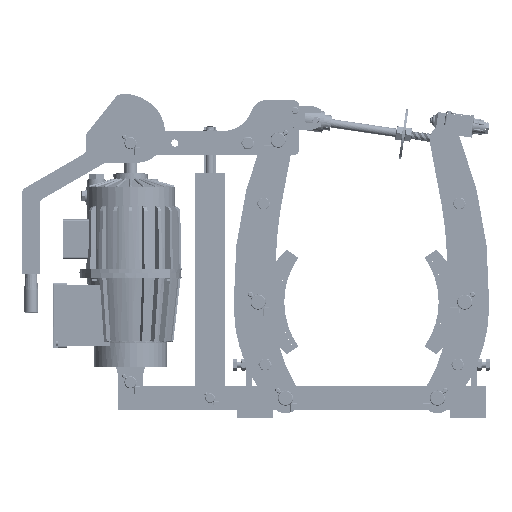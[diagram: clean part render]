
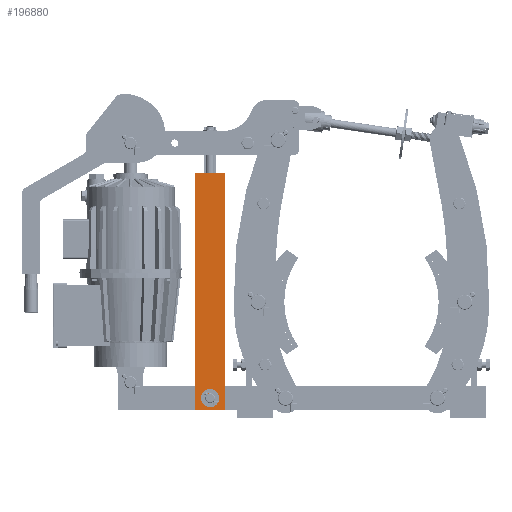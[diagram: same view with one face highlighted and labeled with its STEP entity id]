
A CAD part, left-side view. The second image highlights one B-rep face of the part: STEP entity #196880.
In plain terms, the highlighted planar face has unit normal (1, 0, 0).
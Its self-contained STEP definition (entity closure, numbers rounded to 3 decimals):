
#196829=DIRECTION('',(0.,0.,1.));
#196830=VECTOR('',#196829,390.);
#196831=CARTESIAN_POINT('',(-80.,429.,12.));
#196832=LINE('',#196831,#196830);
#196836=DIRECTION('',(0.,1.,0.));
#196837=VECTOR('',#196836,50.);
#196838=CARTESIAN_POINT('',(-80.,429.,402.));
#196839=LINE('',#196838,#196837);
#196843=DIRECTION('',(0.,0.,-1.));
#196844=VECTOR('',#196843,390.);
#196845=CARTESIAN_POINT('',(-80.,479.,402.));
#196846=LINE('',#196845,#196844);
#196850=DIRECTION('',(0.,-1.,0.));
#196851=VECTOR('',#196850,50.);
#196852=CARTESIAN_POINT('',(-80.,479.,12.));
#196853=LINE('',#196852,#196851);
#196857=CARTESIAN_POINT('',(-80.,429.,12.));
#196858=CARTESIAN_POINT('',(-80.,429.,402.));
#196859=VERTEX_POINT('',#196857);
#196860=VERTEX_POINT('',#196858);
#196861=CARTESIAN_POINT('',(-80.,479.,402.));
#196862=VERTEX_POINT('',#196861);
#196863=CARTESIAN_POINT('',(-80.,479.,12.));
#196864=VERTEX_POINT('',#196863);
#196865=CARTESIAN_POINT('',(-80.,454.,207.));
#196866=DIRECTION('',(1.,0.,0.));
#196867=DIRECTION('',(0.,1.,0.));
#196868=AXIS2_PLACEMENT_3D('',#196865,#196866,#196867);
#196869=PLANE('',#196868);
#196871=ORIENTED_EDGE('',*,*,#196870,.T.);
#196873=ORIENTED_EDGE('',*,*,#196872,.T.);
#196875=ORIENTED_EDGE('',*,*,#196874,.T.);
#196877=ORIENTED_EDGE('',*,*,#196876,.T.);
#196878=EDGE_LOOP('',(#196871,#196873,#196875,#196877));
#196879=FACE_OUTER_BOUND('',#196878,.F.);
#196880=ADVANCED_FACE('',(#196879),#196869,.T.);
#196870=EDGE_CURVE('',#196859,#196860,#196832,.T.);
#196872=EDGE_CURVE('',#196860,#196862,#196839,.T.);
#196874=EDGE_CURVE('',#196862,#196864,#196846,.T.);
#196876=EDGE_CURVE('',#196864,#196859,#196853,.T.);
